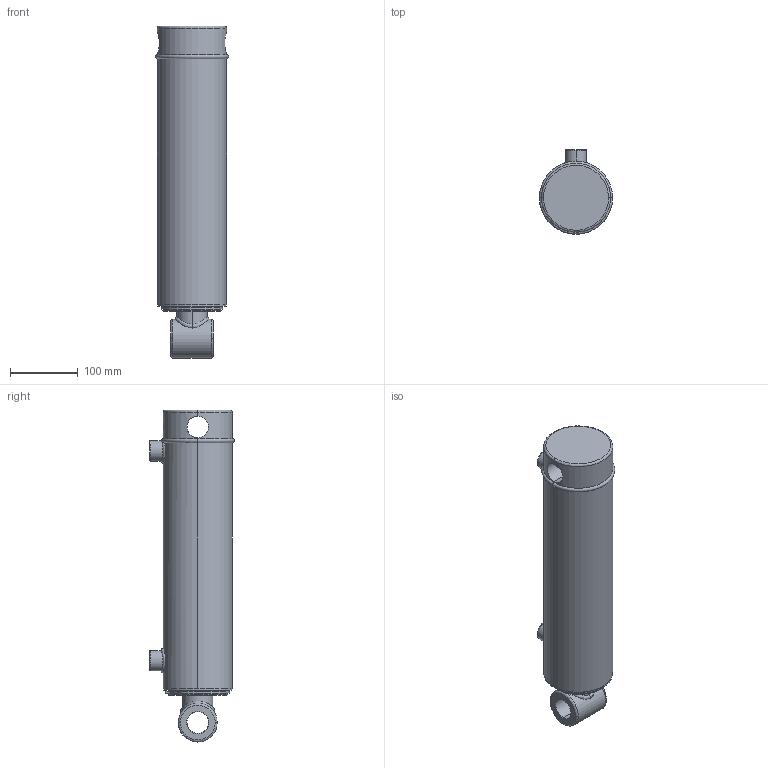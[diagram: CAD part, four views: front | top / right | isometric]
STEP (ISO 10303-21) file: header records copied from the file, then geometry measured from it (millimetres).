
FILE_DESCRIPTION (( 'STEP AP203' ), '1' );
FILE_NAME ('SB-C350175x245 (10).STEP', '2015-03-31T23:17:35', ( '' ), ( '' ), 'SwSTEP 2.0', 'SolidWorks 2015', '' );
FILE_SCHEMA (( 'CONFIG_CONTROL_DESIGN' ));
Length unit declared in the file: millimetre
Products named in the file (6): SB-C350175x457 (18) BODY; 18 spare_10; SB-C350175x457 (18) BODY_10; spare 18; 3.5 INCH CIRCLIP; SB-C350175x245 (10)
Assembly tree (5 placements, depth 3):
  SB-C350175x245 (10)
    SB-C350175x457 (18) BODY
      SB-C350175x457 (18) BODY_10
      3.5 INCH CIRCLIP
    spare 18
      18 spare_10
Bounding box: 107.6 x 124.6 x 488.57 mm (x, y, z)
Volume: 3435179.8 mm3; surface area: 290405.7 mm2
Topology: 3 solids, 3 shells, 114 faces, 269 edges, 167 vertices
Faces by surface type: cylinder 49, plane 23, bspline 22, cone 12, torus 8
Entity records: 13049 total; most frequent: CARTESIAN_POINT 9929, ORIENTED_EDGE 530, DIRECTION 518, EDGE_CURVE 265, AXIS2_PLACEMENT_3D 220, VERTEX_POINT 167, EDGE_LOOP 134, CIRCLE 118
